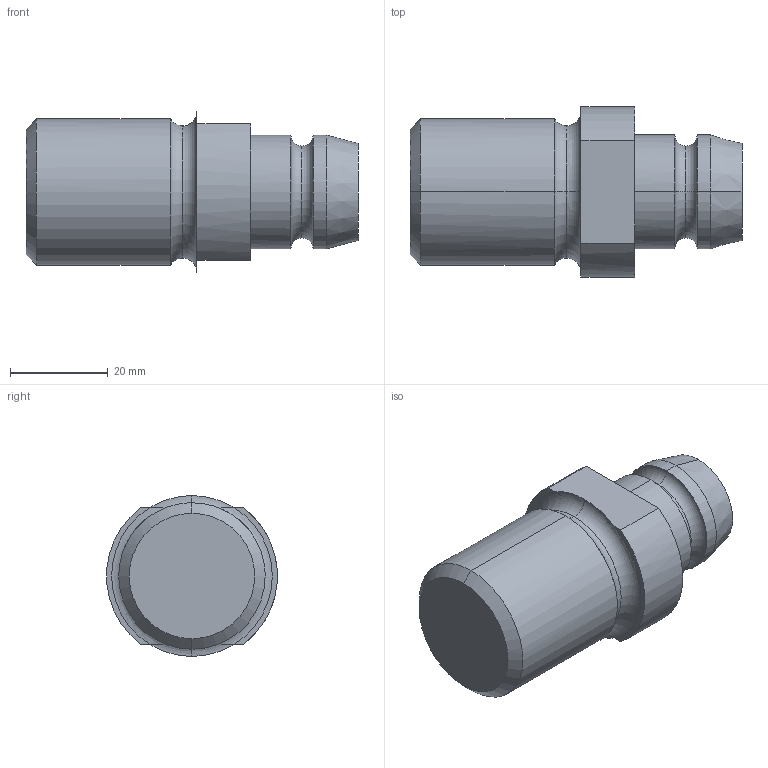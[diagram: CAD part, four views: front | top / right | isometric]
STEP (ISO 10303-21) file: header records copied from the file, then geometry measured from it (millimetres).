
FILE_DESCRIPTION(('CATIA V5 STEP Exchange'),'2;1');
FILE_NAME('C:\Users\Utente\Desktop\IO LAVORO\3D X SITO CF\X SITO\PLASTICA\AGS\AGS3411M30.stp','2021-02-21T19:24:28+00:00',('none'),('none'),'CATIA Version 5 Release 20 GA (IN-10)','CATIA V5 STEP AP203','none');
FILE_SCHEMA(('CONFIG_CONTROL_DESIGN'));
Length unit declared in the file: millimetre
Products named in the file (1): AGS3411M30
Bounding box: 68 x 34.9 x 32.92 mm (x, y, z)
Volume: 42034 mm3; surface area: 7822.7 mm2
Topology: 1 solids, 1 shells, 29 faces, 76 edges, 50 vertices
Faces by surface type: plane 9, cylinder 8, torus 8, cone 4
Entity records: 988 total; most frequent: CARTESIAN_POINT 246, ORIENTED_EDGE 152, DIRECTION 125, EDGE_CURVE 76, AXIS2_PLACEMENT_3D 75, VERTEX_POINT 50, CIRCLE 45, EDGE_LOOP 30
